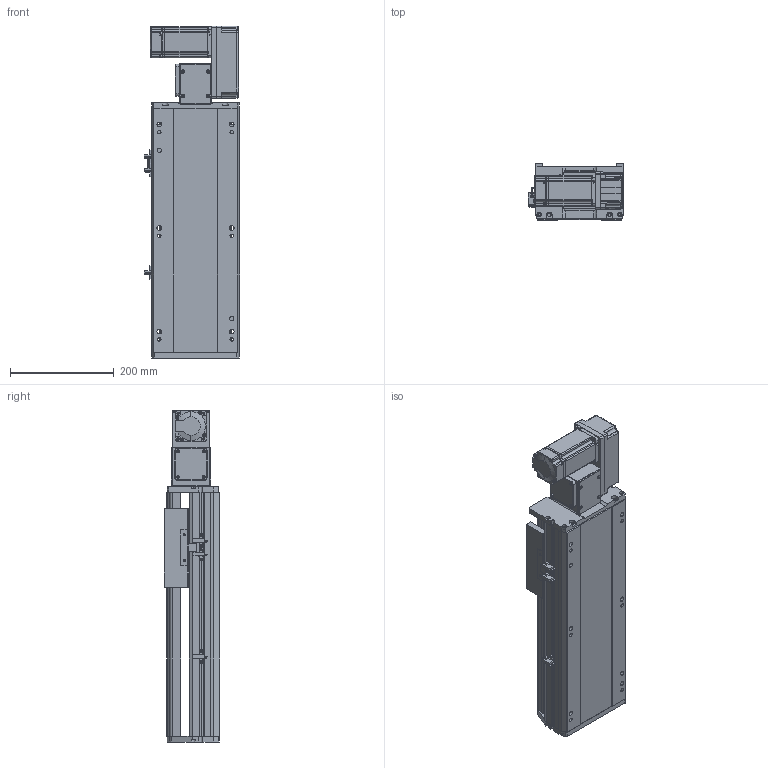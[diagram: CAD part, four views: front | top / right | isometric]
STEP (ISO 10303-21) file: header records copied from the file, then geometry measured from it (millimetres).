
FILE_DESCRIPTION (( 'STEP AP214' ), '1' );
FILE_NAME ('RTB17S-XX-200-R-M40-C4.STEP', '2025-12-11T07:31:22', ( '' ), ( '' ), 'SwSTEP 2.0', 'SolidWorks 2018', '' );
FILE_SCHEMA (( 'AUTOMOTIVE_DESIGN' ));
Length unit declared in the file: millimetre
Products named in the file (14): RTB17S-XX-200-R-M40-C4; RTB17S-L-001耜醱啣^RTB17S-XX-XX-R-M40-C4; 400W侜督萇儂^RTB17S-XX-XX-R-M40-C4; RTB14-L-008-M20--萇儂啣^RTB17S-R-々湍釱蚾饜-400W_RTB17S-XX-XX-R-M40-C4; RTB14-L-017P^RTB17S-R-々湍釱蚾饜-400W_RTB17S-XX-XX-R-M40-C4; RTB17-R-011菁釱^RTB17S-XX-XX-R-M40-C4; OMRON EE-SX672 传感器^RTB17S-XX-XX-R-M40-C4; RTB17S-L-007奻裔^RTB17S-XX-XX-R-M40-C4; RTB17S-L-014-T20--々湍釱^RTB17S-R-々湍釱蚾饜-400W_RTB17S-XX-XX-R-M40-C4; RTH13-BL-012覜茼え俋离^RTB17S-XX-XX-R-M40-C4; RTB14-L-018P^RTB17S-R-々湍釱蚾饜-400W_RTB17S-XX-XX-R-M40-C4; RTB14-L-005P--轴承塑胶压盖^RTB17S-R-皮带座装配-400W_RTB17S-XX-XX-R-M40-C4; RTB17S-R-々湍釱蚾饜-400W^RTB17S-XX-XX-R-M40-C4; RTB17S-L-004佪裝蹟譫蟀諉釱^RTB17S-XX-XX-R-M40-C4
Assembly tree (16 placements, depth 3):
  RTB17S-XX-200-R-M40-C4
    RTB17-R-011菁釱^RTB17S-XX-XX-R-M40-C4
    RTB17S-L-007奻裔^RTB17S-XX-XX-R-M40-C4
    OMRON EE-SX672 传感器^RTB17S-XX-XX-R-M40-C4  x3
    RTB17S-L-001耜醱啣^RTB17S-XX-XX-R-M40-C4
    400W侜督萇儂^RTB17S-XX-XX-R-M40-C4
    RTB17S-L-004佪裝蹟譫蟀諉釱^RTB17S-XX-XX-R-M40-C4
    RTH13-BL-012覜茼え俋离^RTB17S-XX-XX-R-M40-C4
    RTB17S-R-々湍釱蚾饜-400W^RTB17S-XX-XX-R-M40-C4
      RTB17S-L-014-T20--々湍釱^RTB17S-R-々湍釱蚾饜-400W_RTB17S-XX-XX-R-M40-C4
      RTB14-L-005P--轴承塑胶压盖^RTB17S-R-皮带座装配-400W_RTB17S-XX-XX-R-M40-C4
      RTB14-L-008-M20--萇儂啣^RTB17S-R-々湍釱蚾饜-400W_RTB17S-XX-XX-R-M40-C4
      RTB14-L-017P^RTB17S-R-々湍釱蚾饜-400W_RTB17S-XX-XX-R-M40-C4  x2
      RTB14-L-018P^RTB17S-R-々湍釱蚾饜-400W_RTB17S-XX-XX-R-M40-C4
Bounding box: 183.5 x 108 x 641 mm (x, y, z)
Volume: 5853064.3 mm3; surface area: 785732.4 mm2
Topology: 15 solids, 15 shells, 2141 faces, 5871 edges, 3825 vertices
Faces by surface type: plane 1060, cylinder 633, bspline 301, cone 139, torus 8
Entity records: 59561 total; most frequent: CARTESIAN_POINT 16476, ORIENTED_EDGE 8586, DIRECTION 8036, EDGE_CURVE 4293, VERTEX_POINT 2813, AXIS2_PLACEMENT_3D 2743, VECTOR 2550, LINE 2550
